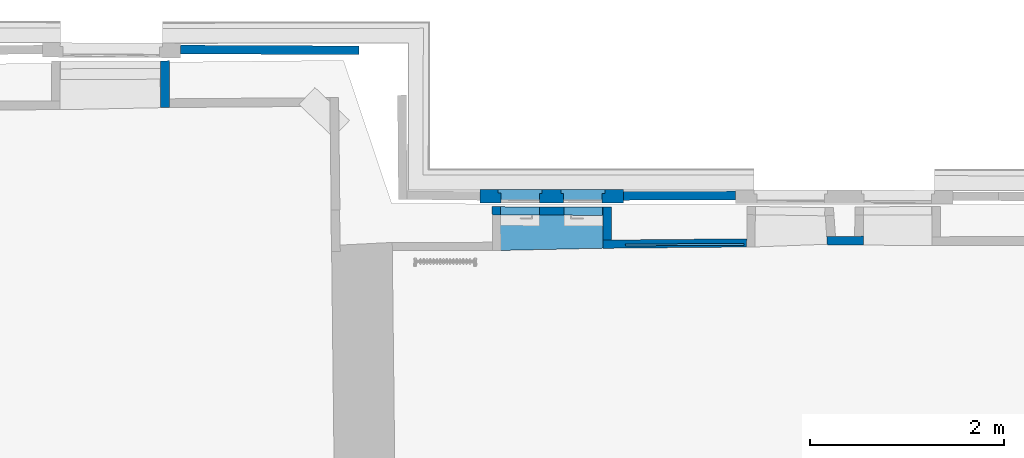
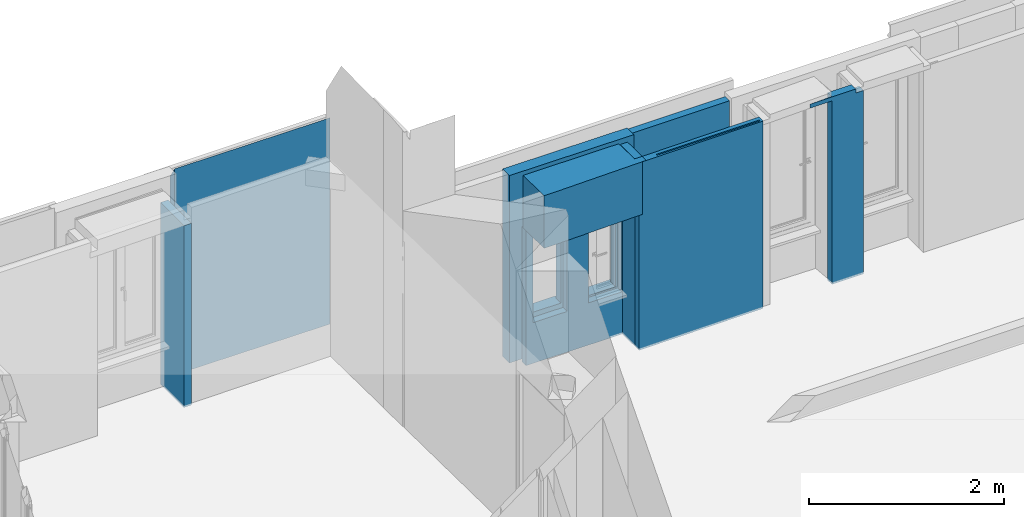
# One storey, part 21 of 72: 9 walls, 4 openings.
"""IFC2X3 building model written with IfcOpenShell, lengths in centimetres."""

from ifc_helpers import new_model, entity, si_unit, converted_unit, direction, frame, origin, origin_with_axes, origin_2d_with_axis, place, context, subcontext, project, spatial, polyline, rectangle, outline, extrude, clip, bounded_halfspace, faceted_brep, shape, material, layer, layer_set, layer_usage, type_object, element, save


model = new_model("IFC2X3")

# Units and contexts
model_context = context("Model", 3, precision=0.0001, world=origin(), true_north=direction((0.225632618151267, 0.974212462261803, 0.0)))
body_context = subcontext(model_context, "Body", "Model", "MODEL_VIEW")
footprint_context = subcontext(model_context, "FootPrint", "Model", "MODEL_VIEW")
profile_context = subcontext(model_context, "Profile", "Model", "MODEL_VIEW")
ifc_project = project(units=[si_unit("LENGTHUNIT", "METRE", prefix="CENTI"), si_unit("AREAUNIT", "SQUARE_METRE", prefix="CENTI"), si_unit("VOLUMEUNIT", "CUBIC_METRE", prefix="CENTI"), converted_unit("PLANEANGLEUNIT", "DEGREE", entity("IfcRatioMeasure", 0.0174532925), si_unit("PLANEANGLEUNIT", "RADIAN"), dimensions=[0, 0, 0, 0, 0, 0, 0])], contexts=[model_context])

# Site, building, storey
site_placement = place(None, origin_with_axes())
site = spatial("IfcSite", under=ifc_project, at=site_placement, Name="Default Site", CompositionType="ELEMENT")
building_placement = place(site_placement, origin_with_axes())
building = spatial("IfcBuilding", under=site, at=building_placement, Name="Default Building", CompositionType="ELEMENT")
storey_placement = place(building_placement, frame((0.0, 0.0, 853.910374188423), z_axis=(0.0, 0.0, 1.0), x_axis=(1.0, 0.0, 0.0)))
storey = spatial("IfcBuildingStorey", under=building, at=storey_placement, Name="Niveau 2", CompositionType="ELEMENT", Elevation=853.910374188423)

# Walls
ifc_material = material(Name="<aucun>")
ifc_layer_1 = layer(ifc_material, 9.0)
ifc_layer_set_1 = layer_set([ifc_layer_1], Name="default")
ifc_layer_usage_1 = layer_usage(ifc_layer_set_1, "AXIS2", "POSITIVE", -4.5)
wall_type_1 = type_object("IfcWallType", Name="default 90", PredefinedType="NOTDEFINED", material=ifc_layer_set_1)
wall_1_placement = place(storey_placement, frame((-702.445813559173, 755.548681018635, -1.95399252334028e-11), z_axis=(0.0, 0.0, 1.0), x_axis=(-0.999989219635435, 0.00464334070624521, 0.0)))
solid = clip(clip(clip(clip(clip(clip(clip(clip(extrude(outline(polyline([(183.844502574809, 4.50000000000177), (-1.77635683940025e-13, 4.49999999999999), (-2.66453525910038e-13, -0.340401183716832), (0.0656579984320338, -0.340096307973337), (0.065659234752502, -4.4999999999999), (183.844502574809, -4.49999999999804), (183.844502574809, 4.50000000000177)])), frame((0.0, 0.0, 1.95399252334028e-11), z_axis=(0.0, 0.0, 1.0), x_axis=(1.0, 0.0, 0.0)), (0.0, 0.0, 1.0), 258.587712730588), bounded_halfspace(frame((-1.77635683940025e-13, -0.340401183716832, 250.793057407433), z_axis=(0.0, 0.0, 1.0), x_axis=(2.98051514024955e-14, 1.0, 0.0)), True, frame((-1.77635683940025e-13, -0.340401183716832, 250.793057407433), z_axis=(0.0, 0.0, 1.0), x_axis=(1.0, 0.0, 0.0)), polyline([(-8.88178419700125e-14, 0.0), (0.0, 4.84040118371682), (0.0656592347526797, 4.84040118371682), (0.0656592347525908, 3.86219534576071e-05), (-8.88178419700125e-14, 0.0)]))), bounded_halfspace(frame((173.856668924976, 4.50000000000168, 258.423031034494), z_axis=(-0.000499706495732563, 0.849525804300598, -0.527546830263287), x_axis=(0.00201292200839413, -0.527544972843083, -0.849524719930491)), True, frame((173.856668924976, 4.50000000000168, 258.423031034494), z_axis=(0.0, 0.0, 1.0), x_axis=(1.0, 0.0, 0.0)), polyline([(0.0343407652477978, -8.99999999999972), (9.98783364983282, -8.99999999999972), (9.98783364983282, 8.88178419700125e-14), (0.0, 8.88178419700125e-14), (0.0343407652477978, -8.99999999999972)]))), bounded_halfspace(frame((170.837158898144, 4.50000000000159, 258.425891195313), z_axis=(-0.000499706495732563, 0.849525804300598, -0.527546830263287), x_axis=(-0.999999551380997, -2.39782152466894e-14, 0.00094722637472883)), True, frame((170.837158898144, 4.50000000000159, 258.425891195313), z_axis=(0.0, 0.0, 1.0), x_axis=(1.0, 0.0, 0.0)), polyline([(0.00134831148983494, -0.249768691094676), (3.02043730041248, -0.243019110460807), (3.0195100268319, 1.77635683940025e-13), (-1.77635683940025e-13, 0.0), (0.00134831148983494, -0.249768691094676)]))), bounded_halfspace(frame((0.065659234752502, 3.86844557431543, 257.57063792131), z_axis=(-0.000499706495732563, 0.849525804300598, -0.527546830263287), x_axis=(-0.00133134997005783, 0.527545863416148, 0.849525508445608)), True, frame((0.065659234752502, 3.86844557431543, 257.57063792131), z_axis=(0.0, 0.0, 1.0), x_axis=(1.0, 0.0, 0.0)), polyline([(0.0, -8.36844557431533), (0.0211191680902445, -8.36844557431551), (0.0, 0.0), (0.0, -8.36844557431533)]))), bounded_halfspace(frame((173.857596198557, 4.2569808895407, 258.031688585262), z_axis=(-0.000499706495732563, 0.849525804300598, -0.527546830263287), x_axis=(-0.999993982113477, -0.00223562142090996, -0.00265287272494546)), True, frame((173.857596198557, 4.2569808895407, 258.031688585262), z_axis=(0.0, 0.0, 1.0), x_axis=(1.0, 0.0, 0.0)), polyline([(-3.01908898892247, -0.00674958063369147), (-2.97185313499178, -8.75698088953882), (0.0334134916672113, -8.75698088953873), (0.0, 8.88178419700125e-14), (-3.01908898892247, -0.00674958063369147)]))), bounded_halfspace(frame((0.0656592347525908, 4.49999999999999, 258.58765053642), z_axis=(-0.000499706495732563, 0.849525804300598, -0.527546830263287), x_axis=(0.999993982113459, 0.0022356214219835, 0.0026528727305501)), True, frame((0.0656592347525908, 4.49999999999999, 258.58765053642), z_axis=(0.0, 0.0, 1.0), x_axis=(1.0, 0.0, 0.0)), polyline([(0.00241036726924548, -0.631549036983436), (169.772440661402, -0.252005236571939), (169.771517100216, 1.59872115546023e-12), (-8.88178419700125e-14, 0.0), (0.00241036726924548, -0.631549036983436)]))), bounded_halfspace(frame((169.837176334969, 4.50000000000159, 258.426838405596), z_axis=(-0.000499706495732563, 0.849525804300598, -0.527546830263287), x_axis=(-0.999999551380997, 1.78294878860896e-14, 0.00094722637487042)), True, frame((169.837176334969, 4.50000000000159, 258.426838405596), z_axis=(0.0, 0.0, 1.0), x_axis=(1.0, 0.0, 0.0)), polyline([(0.000923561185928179, -0.252005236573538), (1.00133087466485, -0.249768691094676), (0.999982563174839, 0.0), (-1.77635683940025e-13, 0.0), (0.000923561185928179, -0.252005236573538)]))), bounded_halfspace(frame((169.83853277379, 4.24799573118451, 258.02102645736), z_axis=(-0.000499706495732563, 0.849525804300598, -0.527546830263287), x_axis=(0.999999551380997, 1.02287969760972e-14, -0.000947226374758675)), True, frame((169.83853277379, 4.24799573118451, 258.02102645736), z_axis=(0.0, 0.0, 1.0), x_axis=(1.0, 0.0, 0.0)), polyline([(-169.772873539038, -0.37955015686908), (-169.751754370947, -8.74799573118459), (0.0470869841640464, -8.74799573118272), (0.0, 0.0), (-169.772873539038, -0.37955015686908)])))
element("IfcWallStandardCase", 1, at=wall_1_placement, inside=storey, type_object=wall_type_1, material=ifc_layer_usage_1, Name="Enveloppe 464904", context=body_context, shape_type="Clipping", body=[
    clip(clip(solid, bounded_halfspace(frame((170.838507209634, 4.25023130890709, 258.02367927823), z_axis=(-0.000499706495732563, 0.849525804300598, -0.527546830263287), x_axis=(0.999999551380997, 4.23836313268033e-14, -0.000947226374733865)), True, frame((170.838507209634, 4.25023130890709, 258.02367927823), z_axis=(0.0, 0.0, 1.0), x_axis=(1.0, 0.0, 0.0)), polyline([(-0.999974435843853, -0.00223557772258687), (-0.952887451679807, -8.75023130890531), (0.0472358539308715, -8.75023130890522), (1.77635683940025e-13, -8.88178419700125e-14), (-0.999974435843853, -0.00223557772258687)]))), bounded_halfspace(frame((-8.88178419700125e-14, 4.49999999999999, 258.587712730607), z_axis=(-0.000499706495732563, 0.849525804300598, -0.527546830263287), x_axis=(-7.79454625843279e-15, 0.527546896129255, 0.849525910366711)), True, frame((-8.88178419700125e-14, 4.49999999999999, 258.587712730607), z_axis=(0.0, 0.0, 1.0), x_axis=(1.0, 0.0, 0.0)), polyline([(-1.77635683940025e-13, -4.84040118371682), (0.065659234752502, -4.84036256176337), (0.0656592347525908, 0.0), (-8.88178419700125e-14, 0.0), (-1.77635683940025e-13, -4.84040118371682)]))),
])
ifc_layer_usage_2 = layer_usage(ifc_layer_set_1, "AXIS2", "POSITIVE", -4.5)
wall_2_placement = place(storey_placement, frame((-430.314595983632, 605.638441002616, -1.95399252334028e-11), z_axis=(0.0, 0.0, 1.0), x_axis=(0.999996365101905, 0.00269625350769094, 0.0)))
element("IfcWallStandardCase", 2, at=wall_2_placement, inside=storey, type_object=wall_type_1, material=ifc_layer_usage_2, Name="Enveloppe 740170", context=body_context, shape_type="SweptSolid", body=[
    extrude(outline(polyline([(-0.0448571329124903, -4.49999999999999), (115.224084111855, -4.49999999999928), (115.268941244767, 4.5000000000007), (3.5527136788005e-13, 4.49999999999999), (-0.0448571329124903, -4.49999999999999)])), frame((0.0, 0.0, 1.97175609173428e-11), z_axis=(0.0, 0.0, 1.0), x_axis=(1.0, 0.0, 0.0)), (0.0, 0.0, 1.0), 234.999999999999),
])
ifc_layer_usage_3 = layer_usage(ifc_layer_set_1, "AXIS2", "POSITIVE", -4.5)
wall_3_placement = place(storey_placement, frame((-902.551010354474, 696.569603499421, 1.4210854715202e-12), z_axis=(0.0, 0.0, 1.0), x_axis=(0.00128951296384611, 0.999999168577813, 0.0)))
element("IfcWallStandardCase", 3, at=wall_3_placement, inside=storey, type_object=wall_type_1, material=ifc_layer_usage_3, Name="Enveloppe 172842", context=body_context, shape_type="SweptSolid", body=[
    extrude(outline(polyline([(0.0, 4.49999999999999), (0.0799270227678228, -4.49999999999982), (48.2641343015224, -4.49999999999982), (48.2305694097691, 4.49999999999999), (0.0, 4.49999999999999)])), frame((0.0, 0.0, -8.88178419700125e-13), z_axis=(0.0, 0.0, 1.0), x_axis=(1.0, 0.0, 0.0)), (0.0, 0.0, 1.0), 228.0),
])
ifc_layer_usage_4 = layer_usage(ifc_layer_set_1, "AXIS2", "POSITIVE", -4.5)
wall_4_placement = place(storey_placement, frame((-235.665194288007, 559.395247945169, 1.4210854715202e-12), z_axis=(0.0, 0.0, 1.0), x_axis=(0.9999931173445, 0.00371015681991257, 0.0)))
element("IfcWallStandardCase", 4, at=wall_4_placement, inside=storey, type_object=wall_type_1, material=ifc_layer_usage_4, Name="Enveloppe 164361", context=body_context, shape_type="Clipping", body=[
    clip(clip(clip(extrude(outline(polyline([(-11.1417165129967, -4.4999999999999), (52.3972913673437, -4.50000000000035), (52.4866289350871, 4.4999999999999), (14.6761451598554, 4.49999999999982), (14.9883463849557, -0.119536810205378), (14.9883463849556, -3.63016645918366), (-11.1417165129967, -4.4999999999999)])), frame((0.0, 0.0, -1.24344978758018e-12), z_axis=(0.0, 0.0, 1.0), x_axis=(1.0, 0.0, 0.0)), (0.0, 0.0, 1.0), 234.999999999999), bounded_halfspace(frame((14.9883463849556, -3.63016645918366, 230.0), z_axis=(0.0, 0.0, 1.0), x_axis=(1.11599098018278e-14, 1.0, 0.0)), True, frame((14.9883463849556, -3.63016645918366, 230.0), z_axis=(0.0, 0.0, 1.0), x_axis=(1.0, 0.0, 0.0)), polyline([(-26.1300628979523, -0.869833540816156), (0.0, -8.88178419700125e-14), (4.44089209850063e-14, 3.51062964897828), (0.296043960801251, -0.869833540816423), (-26.1300628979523, -0.869833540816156)]))), bounded_halfspace(frame((14.9883463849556, -0.119536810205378, 230.0), z_axis=(0.0, 0.0, -1.0), x_axis=(1.53536038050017e-14, 1.0, 0.0)), True, frame((14.9883463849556, -0.119536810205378, 230.0), z_axis=(0.0, 0.0, 1.0), x_axis=(1.0, 0.0, 0.0)), polyline([(-0.312201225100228, 4.61953681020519), (0.0, 0.0), (1.33226762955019e-13, 4.61953681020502), (-0.312201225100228, 4.61953681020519)]))), bounded_halfspace(frame((43.2968479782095, -4.50000000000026, 230.0), z_axis=(0.0, 0.0, -1.0), x_axis=(1.0, -1.4364377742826e-14, 0.0)), True, frame((43.2968479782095, -4.50000000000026, 230.0), z_axis=(0.0, 0.0, 1.0), x_axis=(1.0, 0.0, 0.0)), polyline([(2.22044604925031e-14, -8.88178419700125e-14), (9.10044338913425, -1.77635683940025e-13), (9.18978095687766, 9.00000000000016), (1.33226762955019e-13, 9.00000000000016), (2.22044604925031e-14, -8.88178419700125e-14)]))),
])
ifc_layer_2 = layer(ifc_material, 40.0)
ifc_layer_set_2 = layer_set([ifc_layer_2], Name="default")
ifc_layer_usage_5 = layer_usage(ifc_layer_set_2, "AXIS2", "POSITIVE", -20.0)
wall_type_2 = type_object("IfcWallType", Name="default 400", PredefinedType="NOTDEFINED", material=ifc_layer_set_2)
wall_5_placement = place(storey_placement, frame((-556.933762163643, 569.435701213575, 169.000000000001), z_axis=(0.0, 0.0, 1.0), x_axis=(0.999758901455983, 0.0219576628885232, 0.0)))
element("IfcWallStandardCase", 5, at=wall_5_placement, inside=storey, type_object=wall_type_2, material=ifc_layer_usage_5, Name="Enveloppe 167914", context=body_context, shape_type="SweptSolid", body=[
    extrude(outline(polyline([(-8.09992907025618, 22.4617928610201), (-8.41862652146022, -11.3311675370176), (-8.51860219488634, -11.3289717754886), (-8.68754775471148, -19.8272926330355), (0.0, -19.9999999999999), (113.850879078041, -20.0), (113.955518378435, -11.7420617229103), (113.855669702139, -11.7398687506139), (113.857865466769, -11.639892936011), (105.354580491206, -11.4426839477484), (105.15901138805, 19.9999999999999), (0.0, 22.4617928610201), (-8.09992907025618, 22.4617928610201)])), frame((0.0, 0.0, -1.77635683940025e-13), z_axis=(0.0, 0.0, 1.0), x_axis=(1.0, 0.0, 0.0)), (0.0, 0.0, 1.0), 65.9999999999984),
])

# Wall, openings
ifc_layer_3 = layer(ifc_material, 14.0)
ifc_layer_set_3 = layer_set([ifc_layer_3], Name="default")
ifc_layer_usage_6 = layer_usage(ifc_layer_set_3, "AXIS2", "POSITIVE", -7.0)
wall_type_3 = type_object("IfcWallType", Name="default 140", PredefinedType="NOTDEFINED", material=ifc_layer_set_3)
wall_6_placement = place(storey_placement, frame((-430.338164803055, 605.139945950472, -1.95399252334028e-11), z_axis=(0.0, 0.0, 1.0), x_axis=(-0.999997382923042, 0.0022878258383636, 0.0)))
wall_6 = element("IfcWallStandardCase", 6, at=wall_6_placement, inside=storey, type_object=wall_type_3, material=ifc_layer_usage_6, Name="Enveloppe 740525", context=body_context, shape_type="SweptSolid", body=[
    extrude(rectangle(XDim=13.9999999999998, YDim=147.688853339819, at=origin_2d_with_axis()), frame((73.8444266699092, 0.0, 1.98951966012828e-11), z_axis=(0.0, 0.0, 1.0), x_axis=(-1.43114686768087e-17, -1.0, 0.0)), (0.0, 0.0, 1.0), 234.999999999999),
])
opening_1_placement = place(wall_6_placement, frame((18.9620274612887, -1.13686837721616e-13, 52.0000000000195), z_axis=(0.0, 0.0, 1.0), x_axis=(-1.0, 5.9761223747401e-16, 0.0)))
cartesian_point_1 = entity("IfcCartesianPoint", [0.0, -8.88178419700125e-14, 119.67875711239])
cartesian_point_2 = entity("IfcCartesianPoint", [-45.5994283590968, -7.00000000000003])
element("IfcOpeningElement", 7, at=opening_1_placement, cuts=wall_6, Name="Baie 741210", ObjectType="Opening", shapes=[
    shape(body_context, "Body", "Brep", [faceted_brep([(-3.00001144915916, -26.9999829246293, 119.678710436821), (-42.5994383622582, -26.9999829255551, 119.678710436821), (-42.5994383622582, -26.9999829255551, 2.23875048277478e-05), (-3.00001144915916, -26.9999829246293, 2.23875048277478e-05), (2.33147297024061e-05, 27.0000086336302, 2.23875048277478e-05), (-45.5994135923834, 27.0000086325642, 2.23875048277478e-05), (-45.5994135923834, 27.0000086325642, 119.678710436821), (2.33147297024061e-05, 27.0000086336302, 119.678710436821), (-3.00001144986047, 3.00001936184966, 2.23875048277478e-05), (-3.00001144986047, 3.00001936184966, 119.678710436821), (-2.99998167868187, 3.00001936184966, 119.678710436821), (-2.99998167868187, 3.00001936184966, 2.23875048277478e-05), (-5.23470511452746e-07, 3.00001936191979, 2.23875048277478e-05), (-5.23470511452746e-07, 3.00001936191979, 119.678710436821), (-5.23470511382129e-07, 3.00001634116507, 119.678710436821), (-5.23470511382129e-07, 3.00001634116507, 2.23875048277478e-05), (-5.24031565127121e-07, 27.0000086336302, 2.23875048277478e-05), (-5.24031565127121e-07, 27.0000086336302, 119.678710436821), (-42.5994383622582, -26.9999804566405, 2.23875048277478e-05), (-42.5994085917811, 3.0000218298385, 2.23875048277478e-05), (-45.5994373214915, 2.99997705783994, 2.23875048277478e-05), (-45.5994135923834, 27.000017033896, 2.23875048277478e-05), (-42.5994383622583, -26.9999804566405, 119.678710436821), (-42.5994383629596, 3.00002182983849, 119.678710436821), (-42.5994383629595, 3.00002182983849, 2.23875048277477e-05), (-42.5994085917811, 3.00002182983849, 119.678710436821), (-45.5994373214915, 3.00002182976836, 119.678710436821), (-45.5994373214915, 3.00002182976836, 2.23875048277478e-05), (-45.5994373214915, 2.99997705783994, 119.678710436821), (-45.5994373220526, 27.000017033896, 119.678710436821), (-45.5994373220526, 27.000017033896, 2.23875048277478e-05), (-45.5994135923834, 27.000017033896, 119.678710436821), (-42.5994085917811, 3.0000218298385, 119.678710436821), (-42.5994383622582, -26.9999804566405, 119.678710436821)], [[[0, 1, 2, 3]], [[4, 5, 6, 7]], [[0, 3, 8, 9]], [[10, 11, 12, 13]], [[14, 15, 16, 17]], [[3, 18, 19, 20, 21, 4, 15, 11]], [[18, 22, 23, 24]], [[19, 25, 26, 27]], [[20, 28, 29, 30]], [[10, 14, 7, 31, 28, 32, 33, 0]]])]),
    shape(profile_context, "Profile", "GeometricCurveSet", [entity("IfcGeometricCurveSet", [entity("IfcPolyline", [cartesian_point_1, entity("IfcCartesianPoint", [0.0, -8.88178419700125e-14, 0.0]), entity("IfcCartesianPoint", [-45.5994283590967, 0.0, 0.0]), entity("IfcCartesianPoint", [-45.5994283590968, 0.0, 119.67875711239]), cartesian_point_1])])]),
    shape(footprint_context, "FootPrint", "GeometricCurveSet", [entity("IfcGeometricCurveSet", [entity("IfcPolyline", [cartesian_point_2, entity("IfcCartesianPoint", [0.0, -7.00000000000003]), entity("IfcCartesianPoint", [0.0, 6.99999999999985]), entity("IfcCartesianPoint", [-45.5994283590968, 6.99999999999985]), cartesian_point_2])])]),
])
opening_2_placement = place(wall_6_placement, frame((83.6539666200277, -1.13686837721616e-13, 54.0000000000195), z_axis=(0.0, 0.0, 1.0), x_axis=(-1.0, 5.9761223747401e-16, 0.0)))
cartesian_point_3 = entity("IfcCartesianPoint", [0.0, -8.88178419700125e-14, 115.0])
cartesian_point_4 = entity("IfcCartesianPoint", [-45.5994283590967, -6.99999999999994])
element("IfcOpeningElement", 8, at=opening_2_placement, cuts=wall_6, Name="Baie 741212", ObjectType="Opening", shapes=[
    shape(body_context, "Body", "Brep", [faceted_brep([(-3.00002360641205, -26.9999765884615, 115.0000300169), (-42.5994504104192, -26.9999765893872, 115.0000300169), (-42.5994504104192, -26.9999765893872, -2.7203559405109e-05), (-3.00002360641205, -26.9999765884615, -2.7203559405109e-05), (1.11574768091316e-05, 27.0000149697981, -2.7203559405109e-05), (-45.5994257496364, 27.0000149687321, -2.7203559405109e-05), (-45.5994257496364, 27.0000149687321, 115.0000300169), (1.11574768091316e-05, 27.0000149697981, 115.0000300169), (-3.00002360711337, 2.99997801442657, -2.7203559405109e-05), (-3.00002360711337, 2.99997801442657, 115.0000300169), (-2.99999372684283, 2.99997801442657, 115.0000300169), (-2.99999372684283, 2.99997801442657, -2.7203559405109e-05), (-1.26807234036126e-05, 2.99997801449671, -2.7203559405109e-05), (-1.26807234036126e-05, 2.99997801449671, 115.0000300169), (-1.26807234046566e-05, 3.0000226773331, 115.0000300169), (-1.26807234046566e-05, 3.0000226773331, -2.7203559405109e-05), (-1.26812844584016e-05, 27.0000149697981, -2.7203559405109e-05), (-1.26812844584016e-05, 27.0000149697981, 115.0000300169), (-42.5994504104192, -27.0000218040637, -2.7203559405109e-05), (-42.5994206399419, 2.99998048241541, -2.7203559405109e-05), (-45.5994494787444, 2.99998339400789, -2.7203559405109e-05), (-45.5994257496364, 27.000023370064, -2.7203559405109e-05), (-42.5994504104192, -27.0000218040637, 115.0000300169), (-42.5994504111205, 2.99998048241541, 115.0000300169), (-42.5994504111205, 2.99998048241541, -2.7203559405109e-05), (-42.5994206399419, 2.99998048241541, 115.0000300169), (-45.5994494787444, 2.99998048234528, 115.0000300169), (-45.5994494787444, 2.99998048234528, -2.7203559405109e-05), (-45.5994494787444, 2.99998339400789, 115.0000300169), (-45.5994494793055, 27.000023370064, 115.0000300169), (-45.5994494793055, 27.000023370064, -2.7203559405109e-05), (-45.5994257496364, 27.000023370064, 115.0000300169)], [[[0, 1, 2, 3]], [[4, 5, 6, 7]], [[0, 3, 8, 9]], [[10, 11, 12, 13]], [[14, 15, 16, 17]], [[3, 18, 19, 20, 21, 4, 15, 11]], [[18, 22, 23, 24]], [[19, 25, 26, 27]], [[20, 28, 29, 30]], [[10, 14, 7, 31, 28, 25, 22, 0]]])]),
    shape(profile_context, "Profile", "GeometricCurveSet", [entity("IfcGeometricCurveSet", [entity("IfcPolyline", [cartesian_point_3, entity("IfcCartesianPoint", [0.0, -8.88178419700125e-14, 1.77635683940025e-13]), entity("IfcCartesianPoint", [-45.5994283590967, -8.88178419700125e-14, 1.77635683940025e-13]), entity("IfcCartesianPoint", [-45.5994283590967, -8.88178419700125e-14, 115.0]), cartesian_point_3])])]),
    shape(footprint_context, "FootPrint", "GeometricCurveSet", [entity("IfcGeometricCurveSet", [entity("IfcPolyline", [cartesian_point_4, entity("IfcCartesianPoint", [0.0, -7.00000000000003]), entity("IfcCartesianPoint", [0.0, 6.99999999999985]), entity("IfcCartesianPoint", [-45.5994283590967, 6.99999999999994]), cartesian_point_4])])]),
])

# Wall
ifc_layer_4 = layer(ifc_material, 8.5)
ifc_layer_set_4 = layer_set([ifc_layer_4], Name="default")
ifc_layer_usage_7 = layer_usage(ifc_layer_set_4, "AXIS2", "POSITIVE", -4.25)
wall_type_4 = type_object("IfcWallType", Name="default 85", PredefinedType="NOTDEFINED", material=ifc_layer_set_4)
wall_7_placement = place(storey_placement, frame((-456.114980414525, 555.825259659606, 1.4210854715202e-12), z_axis=(0.0, 0.0, 1.0), x_axis=(0.999956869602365, 0.00928756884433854, 0.0)))
element("IfcWallStandardCase", 9, at=wall_7_placement, inside=storey, type_object=wall_type_4, material=ifc_layer_usage_7, Name="Enveloppe 166680", context=body_context, shape_type="Clipping", body=[
    clip(clip(clip(clip(clip(extrude(outline(polyline([(4.71743298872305, -4.25000148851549), (152.666071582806, -4.2500000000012), (152.666071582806, -2.82255004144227), (152.823920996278, 4.24999999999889), (4.80667067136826, 4.24999999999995), (4.71743298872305, -4.25000148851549)])), frame((0.0, 0.0, -3.5527136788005e-13), z_axis=(0.0, 0.0, 1.0), x_axis=(1.0, 0.0, 0.0)), (0.0, 0.0, 1.0), 234.999999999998), bounded_halfspace(frame((140.977576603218, -2.53428256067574, 101.658645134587), z_axis=(0.0, 0.0, -1.0), x_axis=(0.0950486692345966, 0.995472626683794, 0.0)), True, frame((140.977576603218, -2.53428256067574, 101.658645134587), z_axis=(0.0, 0.0, 1.0), x_axis=(1.0, 0.0, 0.0)), polyline([(-113.461242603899, 2.69612872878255), (-113.169135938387, 0.631211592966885), (-4.44089209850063e-14, 0.0), (0.179551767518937, 1.88049839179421), (-113.461242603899, 2.69612872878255)]))), bounded_halfspace(frame((140.977576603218, -2.53428256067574, 101.658645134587), z_axis=(0.0, 0.0, -1.0), x_axis=(0.999984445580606, -0.00557750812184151, 0.0)), True, frame((140.977576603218, -2.53428256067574, 101.658645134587), z_axis=(0.0, 0.0, 1.0), x_axis=(1.0, 0.0, 0.0)), polyline([(-4.44089209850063e-14, 0.0), (9.03611945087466, -0.0503998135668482), (9.21429200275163, 1.81565364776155), (0.179551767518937, 1.88049839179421), (-4.44089209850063e-14, 0.0)]))), bounded_halfspace(frame((9.07887160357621, -4.25000000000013, 168.999999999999), z_axis=(0.0, 0.0, -1.0), x_axis=(-0.00516837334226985, 0.999986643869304, 0.0)), True, frame((9.07887160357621, -4.25000000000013, 168.999999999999), z_axis=(0.0, 0.0, 1.0), x_axis=(1.0, 0.0, 0.0)), polyline([(-4.36159887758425, -8.88178419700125e-14), (-8.88178419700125e-14, 0.0), (-0.000959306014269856, 0.185608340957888), (-4.36022776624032, 0.130365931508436), (-4.36159887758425, -8.88178419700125e-14)]))), bounded_halfspace(frame((13.4071407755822, -4.00952992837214, 168.999999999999), z_axis=(0.0, 0.0, -1.0), x_axis=(1.52100554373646e-14, 1.0, 0.0)), True, frame((13.4071407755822, -4.00952992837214, 168.999999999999), z_axis=(0.0, 0.0, 1.0), x_axis=(1.0, 0.0, 0.0)), polyline([(-8.68849693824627, -0.11010414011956), (-8.88178419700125e-14, 0.0), (1.77635683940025e-13, 8.25952992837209), (-8.60047010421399, 8.25952992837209), (-8.68849693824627, -0.11010414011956)]))), bounded_halfspace(frame((152.666071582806, 4.24999999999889, 230.0), z_axis=(0.0, 0.0, -1.0), x_axis=(-1.77826503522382e-14, -1.0, 0.0)), True, frame((152.666071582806, 4.24999999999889, 230.0), z_axis=(0.0, 0.0, 1.0), x_axis=(1.0, 0.0, 0.0)), polyline([(-1.77635683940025e-13, -7.07255004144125), (0.157849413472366, 0.0), (-4.44089209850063e-14, 0.0), (-1.77635683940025e-13, -7.07255004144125)]))),
])

# Wall, openings
ifc_layer_usage_8 = layer_usage(ifc_layer_set_4, "AXIS2", "POSITIVE", -4.25)
wall_8_placement = place(storey_placement, frame((-445.853192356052, 589.822000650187, 1.4210854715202e-12), z_axis=(0.0, 0.0, 1.0), x_axis=(-0.999993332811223, 0.0036516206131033, 0.0)))
wall_8 = element("IfcWallStandardCase", 10, at=wall_8_placement, inside=storey, type_object=wall_type_4, material=ifc_layer_usage_8, Name="Enveloppe 166814", context=body_context, shape_type="SweptSolid", body=[
    extrude(outline(polyline([(119.723091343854, -4.2500000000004), (119.585544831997, 4.24999999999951), (5.44800041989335, 4.25000000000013), (5.46859012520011, -4.24999999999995), (119.723091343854, -4.2500000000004)])), frame((0.0, 0.0, -5.32907051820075e-13), z_axis=(0.0, 0.0, 1.0), x_axis=(1.0, 0.0, 0.0)), (0.0, 0.0, 1.0), 169.0),
])
opening_3_placement = place(wall_8_placement, frame((6.15067826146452, 1.13686837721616e-13, 55.9999999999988), z_axis=(0.0, 0.0, 1.0), x_axis=(1.0, -4.00504282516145e-15, 0.0)))
cartesian_point_5 = entity("IfcCartesianPoint", [0.0, 0.0, 110.0])
cartesian_point_6 = entity("IfcCartesianPoint", [39.6512926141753, 4.24999999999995])
element("IfcOpeningElement", 11, at=opening_3_placement, cuts=wall_8, Name="4294966436_11", ObjectType="Opening", shapes=[
    shape(body_context, "Body", "SweptSolid", [extrude(outline(polyline([(0.0, 110.0), (0.0, -2.99999999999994), (39.6512926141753, -2.99999999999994), (39.6512926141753, 110.0), (0.0, 110.0)])), frame((0.0, 14.25, 0.0), z_axis=(0.0, -1.0, 0.0), x_axis=(1.0, 0.0, 0.0)), (0.0, 0.0, 1.0), 28.5)]),
    shape(profile_context, "Profile", "GeometricCurveSet", [entity("IfcGeometricCurveSet", [entity("IfcPolyline", [cartesian_point_5, entity("IfcCartesianPoint", [0.0, 0.0, 0.0]), entity("IfcCartesianPoint", [39.6512926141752, -8.88178419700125e-14, 0.0]), entity("IfcCartesianPoint", [39.6512926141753, -8.88178419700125e-14, 110.0]), cartesian_point_5])])]),
    shape(footprint_context, "FootPrint", "GeometricCurveSet", [entity("IfcGeometricCurveSet", [entity("IfcPolyline", [cartesian_point_6, entity("IfcCartesianPoint", [0.0, 4.25000000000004]), entity("IfcCartesianPoint", [8.88178419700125e-14, -4.25000000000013]), entity("IfcCartesianPoint", [39.6512926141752, -4.25000000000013]), cartesian_point_6])])]),
])
opening_4_placement = place(wall_8_placement, frame((71.026558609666, -2.27373675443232e-13, 53.9999999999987), z_axis=(0.0, 0.0, 1.0), x_axis=(1.0, -4.00504282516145e-15, 0.0)))
cartesian_point_7 = entity("IfcCartesianPoint", [0.0, 0.0, 110.0])
cartesian_point_8 = entity("IfcCartesianPoint", [40.1803117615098, 4.25000000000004])
element("IfcOpeningElement", 12, at=opening_4_placement, cuts=wall_8, Name="4294966435_11", ObjectType="Opening", shapes=[
    shape(body_context, "Body", "SweptSolid", [extrude(outline(polyline([(-8.88178419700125e-14, 110.0), (-8.88178419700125e-14, -2.99999999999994), (40.1803117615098, -2.99999999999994), (40.1803117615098, 110.0), (-8.88178419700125e-14, 110.0)])), frame((0.0, 14.25, 0.0), z_axis=(0.0, -1.0, 0.0), x_axis=(1.0, 0.0, 0.0)), (0.0, 0.0, 1.0), 28.5)]),
    shape(profile_context, "Profile", "GeometricCurveSet", [entity("IfcGeometricCurveSet", [entity("IfcPolyline", [cartesian_point_7, entity("IfcCartesianPoint", [0.0, 0.0, 0.0]), entity("IfcCartesianPoint", [40.1803117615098, 8.88178419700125e-14, 0.0]), entity("IfcCartesianPoint", [40.1803117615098, 8.88178419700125e-14, 110.0]), cartesian_point_7])])]),
    shape(footprint_context, "FootPrint", "GeometricCurveSet", [entity("IfcGeometricCurveSet", [entity("IfcPolyline", [cartesian_point_8, entity("IfcCartesianPoint", [-8.88178419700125e-14, 4.25000000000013]), entity("IfcCartesianPoint", [0.0, -4.25000000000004]), entity("IfcCartesianPoint", [40.1803117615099, -4.25000000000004]), cartesian_point_8])])]),
])

# Wall
ifc_layer_usage_9 = layer_usage(ifc_layer_set_4, "AXIS2", "POSITIVE", -4.25)
wall_9_placement = place(storey_placement, frame((-447.104532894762, 554.794088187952, 1.4210854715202e-12), z_axis=(0.0, 0.0, 1.0), x_axis=(0.00122931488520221, 0.999999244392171, 0.0)))
element("IfcWallStandardCase", 13, at=wall_9_placement, inside=storey, type_object=wall_type_4, material=ifc_layer_usage_9, Name="Enveloppe 166801", context=body_context, shape_type="Clipping", body=[
    clip(clip(clip(extrude(outline(polyline([(5.32041017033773, 4.24976717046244), (5.40980798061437, -4.25012293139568), (39.2720687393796, -4.24999999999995), (39.2926085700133, 4.22941035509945), (34.9866459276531, 4.23984076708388), (34.9866334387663, 4.24999998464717), (5.32041017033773, 4.24976717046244)])), origin_with_axes(), (0.0, 0.0, 1.0), 234.999999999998), bounded_halfspace(frame((34.9866459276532, 4.24999999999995, 169.0), z_axis=(0.0, 0.0, 1.0), x_axis=(1.74551909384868e-12, -1.0, 0.0)), True, frame((34.9866459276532, 4.24999999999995, 169.0), z_axis=(0.0, 0.0, 1.0), x_axis=(1.0, 0.0, 0.0)), polyline([(-4.19401242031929, -2.66453525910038e-13), (0.0, -8.88178419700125e-14), (0.0, -0.0101592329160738), (-4.19401242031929, -2.66453525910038e-13)]))), bounded_halfspace(frame((5.5098078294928, -4.25000000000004, 169.0), z_axis=(0.0, 0.0, -1.0), x_axis=(-1.2793585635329e-17, 1.0, 0.0)), True, frame((5.5098078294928, -4.25000000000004, 169.0), z_axis=(0.0, 0.0, 1.0), x_axis=(1.0, 0.0, 0.0)), polyline([(-0.18939794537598, 8.49999999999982), (-0.0999999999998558, 0.0), (0.0, 0.0), (-1.77635683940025e-13, 8.49999999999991), (-0.18939794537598, 8.49999999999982)]))), bounded_halfspace(frame((39.2926085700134, 4.22941035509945, 169.0), z_axis=(0.0, 0.0, -1.0), x_axis=(-0.999997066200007, 0.00242231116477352, 0.0)), True, frame((39.2926085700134, 4.22941035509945, 169.0), z_axis=(0.0, 0.0, 1.0), x_axis=(1.0, 0.0, 0.0)), polyline([(-4.30596264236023, -8.47941035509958), (-0.0205398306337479, -8.4794103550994), (0.0, 0.0), (-4.30596264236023, 0.0104304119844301), (-4.30596264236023, -8.47941035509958)]))),
])

save(model, "model.ifc")
